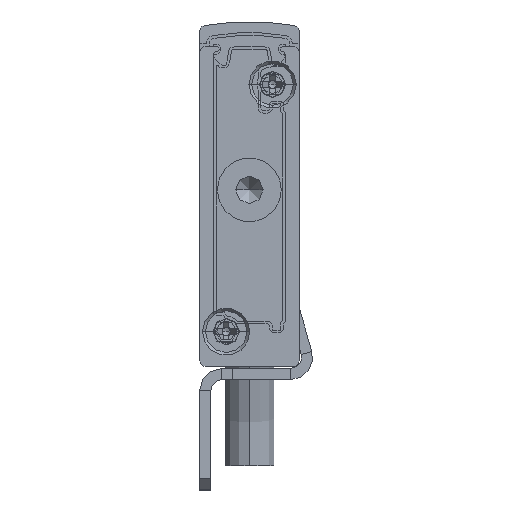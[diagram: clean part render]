
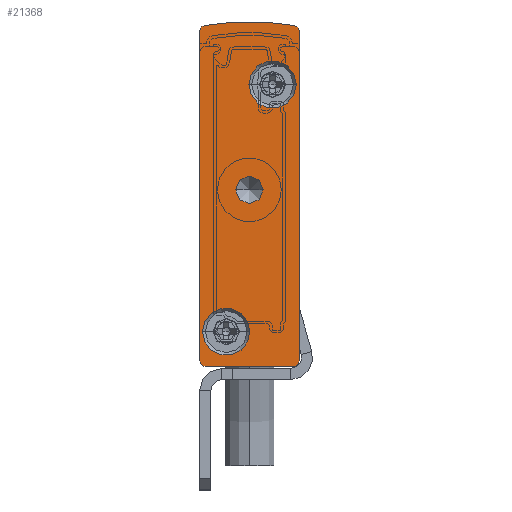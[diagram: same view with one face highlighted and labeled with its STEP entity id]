
A CAD part, front view. The second image highlights one B-rep face of the part: STEP entity #21368.
In plain terms, the highlighted planar face has unit normal (0, -1, 0).
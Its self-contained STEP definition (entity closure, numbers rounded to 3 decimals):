
#149 = CARTESIAN_POINT ( 'NONE',  ( -8.5, -2.5, 0. ) ) ;
#228 = DIRECTION ( 'NONE',  ( 0., 1., 0. ) ) ;
#381 = EDGE_CURVE ( 'NONE', #11435, #1296, #15574, .T. ) ;
#430 = EDGE_CURVE ( 'NONE', #1296, #21256, #4928, .T. ) ;
#971 = ORIENTED_EDGE ( 'NONE', *, *, #14076, .T. ) ;
#1000 = CARTESIAN_POINT ( 'NONE',  ( 0., -2.5, 30.402 ) ) ;
#1256 = EDGE_CURVE ( 'NONE', #18485, #6908, #4046, .T. ) ;
#1296 = VERTEX_POINT ( 'NONE', #11453 ) ;
#1322 = DIRECTION ( 'NONE',  ( 0., 1., 0. ) ) ;
#1388 = CARTESIAN_POINT ( 'NONE',  ( -9., -2.5, 0.5 ) ) ;
#1556 = DIRECTION ( 'NONE',  ( 0., 1., 0. ) ) ;
#1579 = FACE_BOUND ( 'NONE', #9369, .T. ) ;
#1693 = EDGE_CURVE ( 'NONE', #14502, #7299, #12102, .T. ) ;
#1835 = AXIS2_PLACEMENT_3D ( 'NONE', #20812, #15016, #16801 ) ;
#2082 = DIRECTION ( 'NONE',  ( -1., 0., 0. ) ) ;
#2208 = CARTESIAN_POINT ( 'NONE',  ( -8.5, -2.5, 0.5 ) ) ;
#2227 = ORIENTED_EDGE ( 'NONE', *, *, #16529, .F. ) ;
#2975 = DIRECTION ( 'NONE',  ( 0., 0., -1. ) ) ;
#2986 = VERTEX_POINT ( 'NONE', #10295 ) ;
#3410 = EDGE_LOOP ( 'NONE', ( #13255, #20381 ) ) ;
#4046 = CIRCLE ( 'NONE', #10474, 2.15 ) ;
#4609 = AXIS2_PLACEMENT_3D ( 'NONE', #14999, #18845, #6909 ) ;
#4670 = FACE_OUTER_BOUND ( 'NONE', #9380, .T. ) ;
#4928 = CIRCLE ( 'NONE', #10447, 0.5 ) ;
#4932 = CARTESIAN_POINT ( 'NONE',  ( -9., -2.5, 30.402 ) ) ;
#5047 = EDGE_CURVE ( 'NONE', #15928, #11864, #8305, .T. ) ;
#5107 = DIRECTION ( 'NONE',  ( 0., -1., 0. ) ) ;
#5426 = EDGE_CURVE ( 'NONE', #24360, #14502, #12152, .T. ) ;
#5471 = ORIENTED_EDGE ( 'NONE', *, *, #5426, .F. ) ;
#5667 = CARTESIAN_POINT ( 'NONE',  ( -8.75, -2.5, 3.15 ) ) ;
#6120 = VECTOR ( 'NONE', #25687, 1000. ) ;
#6236 = CARTESIAN_POINT ( 'NONE',  ( -3.25, -2.5, 16. ) ) ;
#6447 = AXIS2_PLACEMENT_3D ( 'NONE', #7839, #9955, #2082 ) ;
#6530 = ORIENTED_EDGE ( 'NONE', *, *, #14157, .F. ) ;
#6565 = ORIENTED_EDGE ( 'NONE', *, *, #430, .F. ) ;
#6752 = DIRECTION ( 'NONE',  ( 0., 0., 1. ) ) ;
#6908 = VERTEX_POINT ( 'NONE', #18913 ) ;
#6909 = DIRECTION ( 'NONE',  ( 1., 0., 0. ) ) ;
#7299 = VERTEX_POINT ( 'NONE', #149 ) ;
#7839 = CARTESIAN_POINT ( 'NONE',  ( -4.5, -2.5, 16. ) ) ;
#8305 = CIRCLE ( 'NONE', #6447, 1.25 ) ;
#8720 = EDGE_CURVE ( 'NONE', #2986, #23518, #23560, .T. ) ;
#8773 = DIRECTION ( 'NONE',  ( 0., -1., 0. ) ) ;
#8870 = DIRECTION ( 'NONE',  ( 1., 0., 0. ) ) ;
#8967 = AXIS2_PLACEMENT_3D ( 'NONE', #9667, #1556, #25323 ) ;
#9163 = DIRECTION ( 'NONE',  ( 0., 1., 0. ) ) ;
#9369 = EDGE_LOOP ( 'NONE', ( #15061, #13921 ) ) ;
#9380 = EDGE_LOOP ( 'NONE', ( #6530, #17227, #2227, #24005, #5471, #20674, #6565, #21257 ) ) ;
#9667 = CARTESIAN_POINT ( 'NONE',  ( -8.5, -2.5, 30.402 ) ) ;
#9695 = LINE ( 'NONE', #4932, #15050 ) ;
#9810 = CARTESIAN_POINT ( 'NONE',  ( -9., -2.5, 30.402 ) ) ;
#9955 = DIRECTION ( 'NONE',  ( 0., 1., 0. ) ) ;
#9977 = AXIS2_PLACEMENT_3D ( 'NONE', #10471, #16287, #16203 ) ;
#10295 = CARTESIAN_POINT ( 'NONE',  ( -4.55, -2.5, 25.55 ) ) ;
#10447 = AXIS2_PLACEMENT_3D ( 'NONE', #21016, #1322, #23171 ) ;
#10471 = CARTESIAN_POINT ( 'NONE',  ( -0.5, -2.5, 0.5 ) ) ;
#10474 = AXIS2_PLACEMENT_3D ( 'NONE', #17278, #11804, #13822 ) ;
#10530 = LINE ( 'NONE', #1000, #19840 ) ;
#11221 = CARTESIAN_POINT ( 'NONE',  ( -2.4, -2.5, 25.55 ) ) ;
#11316 = EDGE_CURVE ( 'NONE', #12328, #15720, #9695, .T. ) ;
#11328 = CARTESIAN_POINT ( 'NONE',  ( -4.5, -2.5, 7.592 ) ) ;
#11409 = EDGE_CURVE ( 'NONE', #23518, #2986, #21220, .T. ) ;
#11435 = VERTEX_POINT ( 'NONE', #23144 ) ;
#11453 = CARTESIAN_POINT ( 'NONE',  ( -0.408, -2.5, 30.893 ) ) ;
#11703 = AXIS2_PLACEMENT_3D ( 'NONE', #2208, #24085, #20258 ) ;
#11804 = DIRECTION ( 'NONE',  ( 0., -1., 0. ) ) ;
#11864 = VERTEX_POINT ( 'NONE', #6236 ) ;
#11940 = ORIENTED_EDGE ( 'NONE', *, *, #5047, .T. ) ;
#12102 = LINE ( 'NONE', #23685, #6120 ) ;
#12152 = CIRCLE ( 'NONE', #9977, 0.5 ) ;
#12245 = CIRCLE ( 'NONE', #17839, 2.15 ) ;
#12328 = VERTEX_POINT ( 'NONE', #1388 ) ;
#13062 = CARTESIAN_POINT ( 'NONE',  ( -5.75, -2.5, 16. ) ) ;
#13255 = ORIENTED_EDGE ( 'NONE', *, *, #11409, .F. ) ;
#13822 = DIRECTION ( 'NONE',  ( 1., 0., 0. ) ) ;
#13921 = ORIENTED_EDGE ( 'NONE', *, *, #1256, .F. ) ;
#14076 = EDGE_CURVE ( 'NONE', #11864, #15928, #19121, .T. ) ;
#14099 = CARTESIAN_POINT ( 'NONE',  ( 0., -2.5, 0.5 ) ) ;
#14157 = EDGE_CURVE ( 'NONE', #15720, #11435, #16308, .T. ) ;
#14217 = DIRECTION ( 'NONE',  ( -1., 0., 0. ) ) ;
#14295 = CARTESIAN_POINT ( 'NONE',  ( -0.25, -2.5, 25.55 ) ) ;
#14502 = VERTEX_POINT ( 'NONE', #25824 ) ;
#14999 = CARTESIAN_POINT ( 'NONE',  ( -2.4, -2.5, 25.55 ) ) ;
#15016 = DIRECTION ( 'NONE',  ( 0., 1., 0. ) ) ;
#15050 = VECTOR ( 'NONE', #6752, 1000. ) ;
#15061 = ORIENTED_EDGE ( 'NONE', *, *, #19109, .F. ) ;
#15133 = DIRECTION ( 'NONE',  ( -1., 0., 0. ) ) ;
#15323 = FACE_BOUND ( 'NONE', #25345, .T. ) ;
#15574 = CIRCLE ( 'NONE', #21136, 23.658 ) ;
#15720 = VERTEX_POINT ( 'NONE', #9810 ) ;
#15928 = VERTEX_POINT ( 'NONE', #13062 ) ;
#16203 = DIRECTION ( 'NONE',  ( -1., 0., 0. ) ) ;
#16287 = DIRECTION ( 'NONE',  ( 0., 1., 0. ) ) ;
#16308 = CIRCLE ( 'NONE', #1835, 0.5 ) ;
#16529 = EDGE_CURVE ( 'NONE', #7299, #12328, #25682, .T. ) ;
#16801 = DIRECTION ( 'NONE',  ( -1., 0., 0. ) ) ;
#17227 = ORIENTED_EDGE ( 'NONE', *, *, #11316, .F. ) ;
#17278 = CARTESIAN_POINT ( 'NONE',  ( -6.6, -2.5, 3.15 ) ) ;
#17566 = PLANE ( 'NONE',  #8967 ) ;
#17839 = AXIS2_PLACEMENT_3D ( 'NONE', #22734, #8773, #8870 ) ;
#18485 = VERTEX_POINT ( 'NONE', #5667 ) ;
#18845 = DIRECTION ( 'NONE',  ( 0., -1., 0. ) ) ;
#18913 = CARTESIAN_POINT ( 'NONE',  ( -4.45, -2.5, 3.15 ) ) ;
#19109 = EDGE_CURVE ( 'NONE', #6908, #18485, #12245, .T. ) ;
#19121 = CIRCLE ( 'NONE', #20924, 1.25 ) ;
#19209 = AXIS2_PLACEMENT_3D ( 'NONE', #11221, #5107, #25140 ) ;
#19328 = FACE_BOUND ( 'NONE', #3410, .T. ) ;
#19840 = VECTOR ( 'NONE', #2975, 1000. ) ;
#20258 = DIRECTION ( 'NONE',  ( -1., 0., 0. ) ) ;
#20381 = ORIENTED_EDGE ( 'NONE', *, *, #8720, .F. ) ;
#20494 = EDGE_CURVE ( 'NONE', #21256, #24360, #10530, .T. ) ;
#20674 = ORIENTED_EDGE ( 'NONE', *, *, #20494, .F. ) ;
#20812 = CARTESIAN_POINT ( 'NONE',  ( -8.5, -2.5, 30.402 ) ) ;
#20924 = AXIS2_PLACEMENT_3D ( 'NONE', #24091, #228, #14217 ) ;
#21016 = CARTESIAN_POINT ( 'NONE',  ( -0.5, -2.5, 30.402 ) ) ;
#21136 = AXIS2_PLACEMENT_3D ( 'NONE', #11328, #9163, #15133 ) ;
#21220 = CIRCLE ( 'NONE', #19209, 2.15 ) ;
#21256 = VERTEX_POINT ( 'NONE', #25166 ) ;
#21257 = ORIENTED_EDGE ( 'NONE', *, *, #381, .F. ) ;
#21368 = ADVANCED_FACE ( 'NONE', ( #19328, #1579, #4670, #15323 ), #17566, .F. ) ;
#22734 = CARTESIAN_POINT ( 'NONE',  ( -6.6, -2.5, 3.15 ) ) ;
#23144 = CARTESIAN_POINT ( 'NONE',  ( -8.592, -2.5, 30.893 ) ) ;
#23171 = DIRECTION ( 'NONE',  ( -1., 0., 0. ) ) ;
#23518 = VERTEX_POINT ( 'NONE', #14295 ) ;
#23560 = CIRCLE ( 'NONE', #4609, 2.15 ) ;
#23685 = CARTESIAN_POINT ( 'NONE',  ( -8.5, -2.5, 0. ) ) ;
#24005 = ORIENTED_EDGE ( 'NONE', *, *, #1693, .F. ) ;
#24085 = DIRECTION ( 'NONE',  ( 0., 1., 0. ) ) ;
#24091 = CARTESIAN_POINT ( 'NONE',  ( -4.5, -2.5, 16. ) ) ;
#24360 = VERTEX_POINT ( 'NONE', #14099 ) ;
#25140 = DIRECTION ( 'NONE',  ( 1., 0., 0. ) ) ;
#25166 = CARTESIAN_POINT ( 'NONE',  ( 0., -2.5, 30.402 ) ) ;
#25323 = DIRECTION ( 'NONE',  ( -1., 0., 0. ) ) ;
#25345 = EDGE_LOOP ( 'NONE', ( #11940, #971 ) ) ;
#25682 = CIRCLE ( 'NONE', #11703, 0.5 ) ;
#25687 = DIRECTION ( 'NONE',  ( -1., 0., 0. ) ) ;
#25824 = CARTESIAN_POINT ( 'NONE',  ( -0.5, -2.5, 0. ) ) ;
